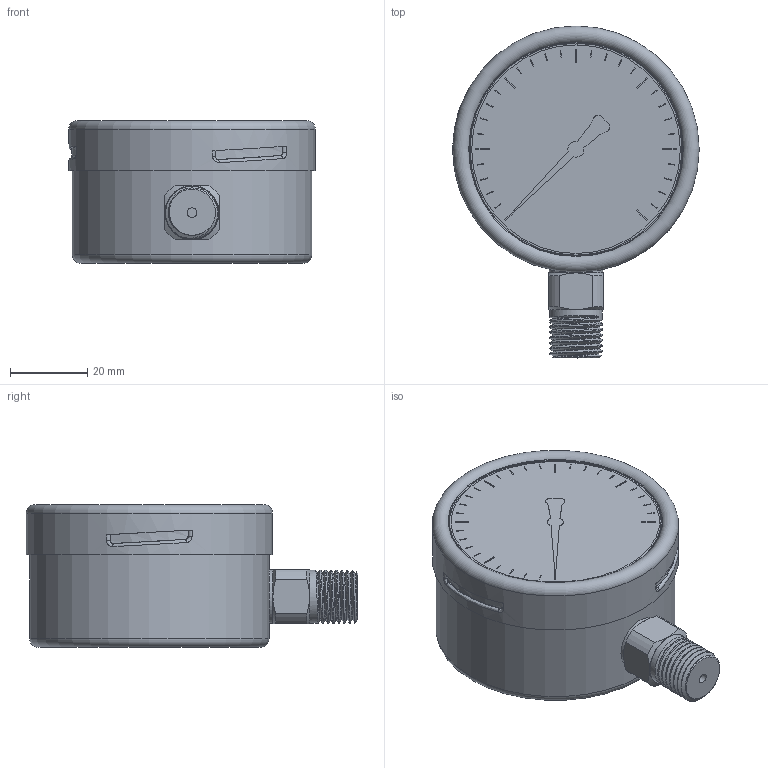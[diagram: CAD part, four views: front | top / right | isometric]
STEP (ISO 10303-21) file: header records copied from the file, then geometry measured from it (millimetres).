
FILE_DESCRIPTION(/* description */ (''),/* implementation_level */ '2;1');
FILE_NAME(/* name */ 'P:\Drawings, Sketches\Stephen Sketches\PCS Gauges\Assemblies\.stp files\40282 - PC25 BOTT.stp',/* time_stamp */ '2023-08-15T14:57:02-05:00',/* author */ ('stephen'),/* organization */ (''),/* preprocessor_version */ 'ST-DEVELOPER v18.1',/* originating_system */ 'Autodesk Inventor 2022',/* authorisation */ '');
FILE_SCHEMA (('AUTOMOTIVE_DESIGN { 1 0 10303 214 3 1 1 }'));
Length unit declared in the file: inch
Products named in the file (4): PC25 BOTT; KPCh63-3rm_G1-4; 2.5in dial; .25 ftg 2
Assembly tree (3 placements, depth 2):
  PC25 BOTT
    KPCh63-3rm_G1-4
    2.5in dial
    .25 ftg 2
Bounding box: 63.8 x 85.91 x 37 mm (x, y, z)
Volume: 113913.2 mm3; surface area: 20646.7 mm2
Topology: 3 solids, 4 shells, 263 faces, 620 edges, 406 vertices
Faces by surface type: plane 191, cylinder 39, bspline 21, cone 9, torus 3
Full cylindrical faces by diameter (mm): 0.254 x1, 2.5 x2, 13.716 x6, 13.9 x1, 54 x1, 54.864 x1, 62 x1, 63.8 x1
Entity records: 14045 total; most frequent: CARTESIAN_POINT 7703, ORIENTED_EDGE 1240, DIRECTION 1137, EDGE_CURVE 620, LINE 461, VECTOR 461, VERTEX_POINT 406, AXIS2_PLACEMENT_3D 338
